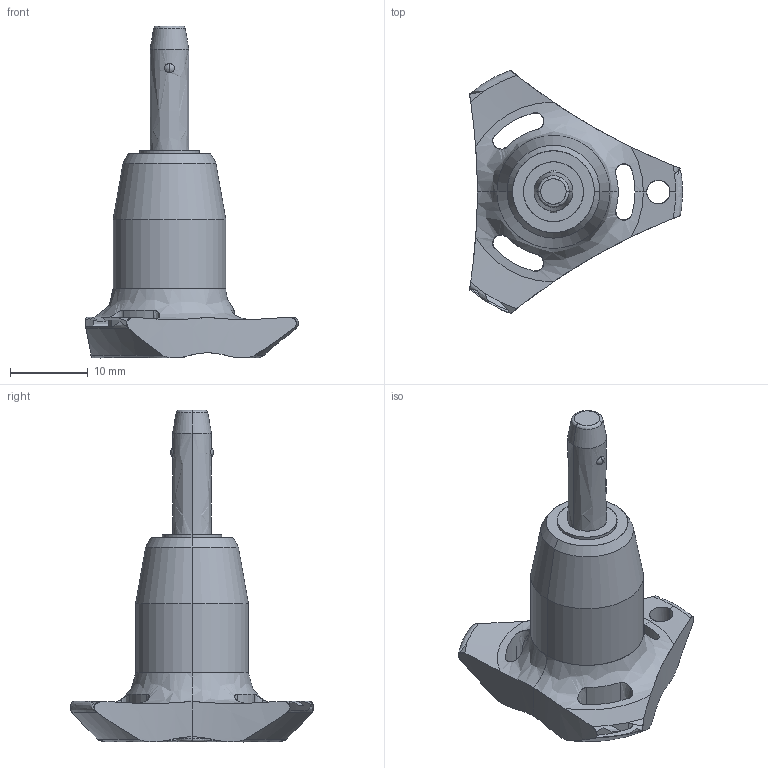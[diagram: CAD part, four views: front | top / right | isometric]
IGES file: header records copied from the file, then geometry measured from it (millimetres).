
Start section: SolidWorks IGES file using analytic representation for surfaces
Global section: file name: C:\Users\ianosborn\Desktop\QR1704_v2\QR1704_v2_20251111_IGES\QR1704.M05-010-S.igs; native system: SolidWorks 2019; preprocessor: SolidWorks 2019; author: IanOsborn; date: 251112.090643; units: millimetre
Bounding box: 27.4 x 31.31 x 42.7 mm (x, y, z)
Surface area: 2665.5 mm2 (no closed solid volume)
Topology: 0 solids, 0 shells, 66 faces, 1227 edges, 1208 vertices
Faces by surface type: revolution 50, bspline 16
